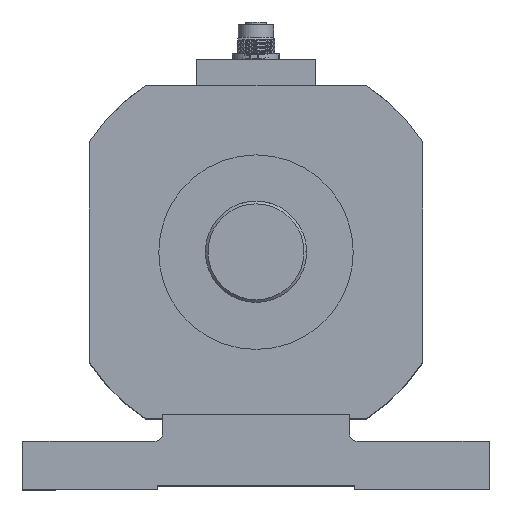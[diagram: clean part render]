
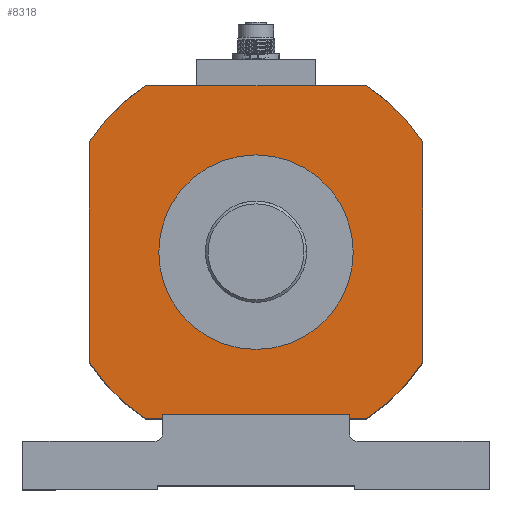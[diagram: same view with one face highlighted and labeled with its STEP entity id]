
A CAD part, top view. The second image highlights one B-rep face of the part: STEP entity #8318.
In plain terms, the highlighted planar face has unit normal (0, 0, 1).
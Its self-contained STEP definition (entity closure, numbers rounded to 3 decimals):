
#340 = VERTEX_POINT ( 'NONE', #11179 ) ;
#393 = CARTESIAN_POINT ( 'NONE',  ( -35., -62.5, 67. ) ) ;
#411 = EDGE_CURVE ( 'NONE', #7339, #11794, #11220, .T. ) ;
#608 = ORIENTED_EDGE ( 'NONE', *, *, #11170, .T. ) ;
#951 = CARTESIAN_POINT ( 'NONE',  ( 0., 0., 67. ) ) ;
#998 = ORIENTED_EDGE ( 'NONE', *, *, #411, .T. ) ;
#1123 = DIRECTION ( 'NONE',  ( 1., 0., 0. ) ) ;
#1289 = ORIENTED_EDGE ( 'NONE', *, *, #5631, .T. ) ;
#1333 = EDGE_CURVE ( 'NONE', #10946, #340, #9865, .T. ) ;
#1705 = CARTESIAN_POINT ( 'NONE',  ( -41.458, -62.5, 67. ) ) ;
#1803 = CARTESIAN_POINT ( 'NONE',  ( 0., 0., 67. ) ) ;
#1968 = EDGE_CURVE ( 'NONE', #11794, #4621, #12767, .T. ) ;
#2092 = LINE ( 'NONE', #2325, #3493 ) ;
#2325 = CARTESIAN_POINT ( 'NONE',  ( -35., -62.5, 67. ) ) ;
#2518 = VERTEX_POINT ( 'NONE', #6581 ) ;
#2743 = ORIENTED_EDGE ( 'NONE', *, *, #1968, .T. ) ;
#2834 = CIRCLE ( 'NONE', #3219, 75. ) ;
#2973 = VECTOR ( 'NONE', #5135, 1000. ) ;
#3067 = LINE ( 'NONE', #7014, #2973 ) ;
#3187 = CARTESIAN_POINT ( 'NONE',  ( -41.458, 62.5, 67. ) ) ;
#3219 = AXIS2_PLACEMENT_3D ( 'NONE', #1803, #5738, #5648 ) ;
#3452 = ORIENTED_EDGE ( 'NONE', *, *, #10676, .T. ) ;
#3493 = VECTOR ( 'NONE', #11361, 1000. ) ;
#3580 = DIRECTION ( 'NONE',  ( 1., 0., 0. ) ) ;
#3679 = AXIS2_PLACEMENT_3D ( 'NONE', #8841, #5122, #9083 ) ;
#3704 = VERTEX_POINT ( 'NONE', #6272 ) ;
#3863 = CARTESIAN_POINT ( 'NONE',  ( 35., -62.5, 67. ) ) ;
#3868 = DIRECTION ( 'NONE',  ( 0., 0., 1. ) ) ;
#4064 = CIRCLE ( 'NONE', #12170, 75. ) ;
#4069 = VECTOR ( 'NONE', #9560, 1000. ) ;
#4144 = CARTESIAN_POINT ( 'NONE',  ( 62.5, 41.458, 67. ) ) ;
#4161 = DIRECTION ( 'NONE',  ( 0., -1., 0. ) ) ;
#4346 = DIRECTION ( 'NONE',  ( -1., 0., 0. ) ) ;
#4382 = CARTESIAN_POINT ( 'NONE',  ( 41.458, -62.5, 67. ) ) ;
#4621 = VERTEX_POINT ( 'NONE', #12759 ) ;
#4687 = EDGE_CURVE ( 'NONE', #7676, #7339, #2092, .T. ) ;
#5122 = DIRECTION ( 'NONE',  ( 0., 0., 1. ) ) ;
#5135 = DIRECTION ( 'NONE',  ( 1., 0., 0. ) ) ;
#5430 = VECTOR ( 'NONE', #4161, 1000. ) ;
#5535 = VERTEX_POINT ( 'NONE', #12227 ) ;
#5600 = EDGE_CURVE ( 'NONE', #3704, #2518, #11310, .T. ) ;
#5631 = EDGE_CURVE ( 'NONE', #8849, #5535, #9295, .T. ) ;
#5647 = DIRECTION ( 'NONE',  ( 1., 0., 0. ) ) ;
#5648 = DIRECTION ( 'NONE',  ( 1., 0., 0. ) ) ;
#5655 = ORIENTED_EDGE ( 'NONE', *, *, #10086, .T. ) ;
#5738 = DIRECTION ( 'NONE',  ( 0., 0., 1. ) ) ;
#5747 = CARTESIAN_POINT ( 'NONE',  ( -35., -61., 67. ) ) ;
#6016 = VERTEX_POINT ( 'NONE', #4144 ) ;
#6272 = CARTESIAN_POINT ( 'NONE',  ( 41.458, 62.5, 67. ) ) ;
#6369 = ORIENTED_EDGE ( 'NONE', *, *, #1333, .T. ) ;
#6581 = CARTESIAN_POINT ( 'NONE',  ( -41.458, 62.5, 67. ) ) ;
#6888 = ORIENTED_EDGE ( 'NONE', *, *, #5600, .T. ) ;
#6929 = AXIS2_PLACEMENT_3D ( 'NONE', #8510, #12495, #3580 ) ;
#6960 = VECTOR ( 'NONE', #5647, 1000. ) ;
#7014 = CARTESIAN_POINT ( 'NONE',  ( 35., -62.5, 67. ) ) ;
#7127 = VERTEX_POINT ( 'NONE', #10382 ) ;
#7339 = VERTEX_POINT ( 'NONE', #5747 ) ;
#7676 = VERTEX_POINT ( 'NONE', #393 ) ;
#7709 = ORIENTED_EDGE ( 'NONE', *, *, #12504, .T. ) ;
#7740 = ORIENTED_EDGE ( 'NONE', *, *, #8390, .T. ) ;
#7802 = DIRECTION ( 'NONE',  ( 0., -1., 0. ) ) ;
#7841 = LINE ( 'NONE', #12682, #4069 ) ;
#8299 = CARTESIAN_POINT ( 'NONE',  ( -62.5, -41.458, 67. ) ) ;
#8318 = ADVANCED_FACE ( 'NONE', ( #11666 ), #12771, .T. ) ;
#8390 = EDGE_CURVE ( 'NONE', #5535, #7127, #2834, .T. ) ;
#8510 = CARTESIAN_POINT ( 'NONE',  ( 0., 0., 67. ) ) ;
#8827 = EDGE_CURVE ( 'NONE', #7127, #7676, #10605, .T. ) ;
#8841 = CARTESIAN_POINT ( 'NONE',  ( 0., 0., 67. ) ) ;
#8849 = VERTEX_POINT ( 'NONE', #12804 ) ;
#9083 = DIRECTION ( 'NONE',  ( 1., 0., 0. ) ) ;
#9220 = CARTESIAN_POINT ( 'NONE',  ( 35., -61., 67. ) ) ;
#9295 = LINE ( 'NONE', #8299, #5430 ) ;
#9560 = DIRECTION ( 'NONE',  ( 0., 1., 0. ) ) ;
#9687 = VECTOR ( 'NONE', #12079, 1000. ) ;
#9865 = CIRCLE ( 'NONE', #6929, 75. ) ;
#10020 = CARTESIAN_POINT ( 'NONE',  ( 0., 0., 67. ) ) ;
#10086 = EDGE_CURVE ( 'NONE', #4621, #10946, #3067, .T. ) ;
#10382 = CARTESIAN_POINT ( 'NONE',  ( -41.458, -62.5, 67. ) ) ;
#10605 = LINE ( 'NONE', #1705, #6960 ) ;
#10634 = ORIENTED_EDGE ( 'NONE', *, *, #8827, .T. ) ;
#10676 = EDGE_CURVE ( 'NONE', #6016, #3704, #11764, .T. ) ;
#10946 = VERTEX_POINT ( 'NONE', #4382 ) ;
#11034 = CARTESIAN_POINT ( 'NONE',  ( -35., -61., 67. ) ) ;
#11043 = VECTOR ( 'NONE', #4346, 1000. ) ;
#11170 = EDGE_CURVE ( 'NONE', #340, #6016, #7841, .T. ) ;
#11179 = CARTESIAN_POINT ( 'NONE',  ( 62.5, -41.458, 67. ) ) ;
#11220 = LINE ( 'NONE', #11034, #9687 ) ;
#11310 = LINE ( 'NONE', #3187, #11043 ) ;
#11361 = DIRECTION ( 'NONE',  ( 0., 1., 0. ) ) ;
#11434 = EDGE_LOOP ( 'NONE', ( #6369, #608, #3452, #6888, #7709, #1289, #7740, #10634, #12547, #998, #2743, #5655 ) ) ;
#11607 = DIRECTION ( 'NONE',  ( 1., 0., 0. ) ) ;
#11666 = FACE_OUTER_BOUND ( 'NONE', #11434, .T. ) ;
#11764 = CIRCLE ( 'NONE', #3679, 75. ) ;
#11794 = VERTEX_POINT ( 'NONE', #9220 ) ;
#11949 = VECTOR ( 'NONE', #7802, 1000. ) ;
#12079 = DIRECTION ( 'NONE',  ( 1., 0., 0. ) ) ;
#12103 = DIRECTION ( 'NONE',  ( 0., 0., 1. ) ) ;
#12162 = AXIS2_PLACEMENT_3D ( 'NONE', #951, #3868, #11607 ) ;
#12170 = AXIS2_PLACEMENT_3D ( 'NONE', #10020, #12103, #1123 ) ;
#12227 = CARTESIAN_POINT ( 'NONE',  ( -62.5, -41.458, 67. ) ) ;
#12495 = DIRECTION ( 'NONE',  ( 0., 0., 1. ) ) ;
#12504 = EDGE_CURVE ( 'NONE', #2518, #8849, #4064, .T. ) ;
#12547 = ORIENTED_EDGE ( 'NONE', *, *, #4687, .T. ) ;
#12682 = CARTESIAN_POINT ( 'NONE',  ( 62.5, -41.458, 67. ) ) ;
#12759 = CARTESIAN_POINT ( 'NONE',  ( 35., -62.5, 67. ) ) ;
#12767 = LINE ( 'NONE', #3863, #11949 ) ;
#12771 = PLANE ( 'NONE',  #12162 ) ;
#12804 = CARTESIAN_POINT ( 'NONE',  ( -62.5, 41.458, 67. ) ) ;
